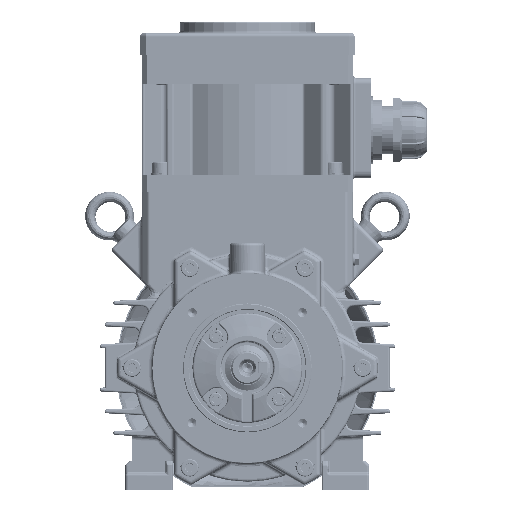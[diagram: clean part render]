
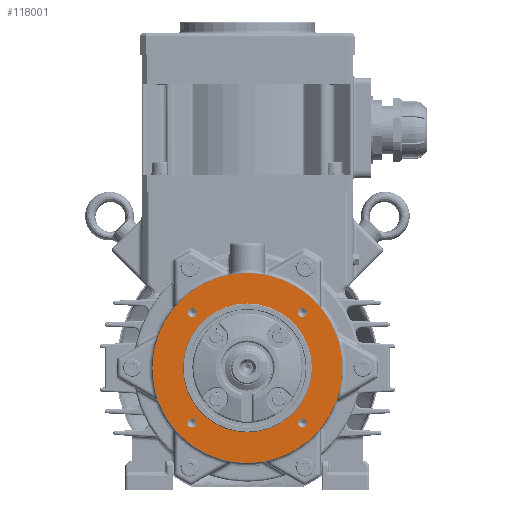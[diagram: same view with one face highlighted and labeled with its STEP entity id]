
A CAD part, front view. The second image highlights one B-rep face of the part: STEP entity #118001.
In plain terms, the highlighted planar face has unit normal (0, -1, 0).
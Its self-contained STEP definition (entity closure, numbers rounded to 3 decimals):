
#27244=ORIENTED_EDGE('',*,*,#46596,.F.);
#27245=ORIENTED_EDGE('',*,*,#46597,.T.);
#27246=ORIENTED_EDGE('',*,*,#46598,.T.);
#27247=ORIENTED_EDGE('',*,*,#46599,.T.);
#27248=ORIENTED_EDGE('',*,*,#46600,.T.);
#27249=ORIENTED_EDGE('',*,*,#46601,.T.);
#46596=EDGE_CURVE('',#56878,#56878,#63614,.T.);
#46597=EDGE_CURVE('',#56879,#56879,#63615,.T.);
#46598=EDGE_CURVE('',#56880,#56880,#63616,.T.);
#46599=EDGE_CURVE('',#56881,#56881,#63617,.T.);
#46600=EDGE_CURVE('',#56882,#56882,#63618,.T.);
#46601=EDGE_CURVE('',#56883,#56883,#63619,.T.);
#56878=VERTEX_POINT('',#179912);
#56879=VERTEX_POINT('',#179914);
#56880=VERTEX_POINT('',#179916);
#56881=VERTEX_POINT('',#179918);
#56882=VERTEX_POINT('',#179920);
#56883=VERTEX_POINT('',#179922);
#63614=CIRCLE('',#125142,47.5);
#63615=CIRCLE('',#125143,70.);
#63616=CIRCLE('',#125144,3.324);
#63617=CIRCLE('',#125145,3.324);
#63618=CIRCLE('',#125146,3.324);
#63619=CIRCLE('',#125147,3.324);
#68764=EDGE_LOOP('',(#27244));
#68765=EDGE_LOOP('',(#27245));
#68766=EDGE_LOOP('',(#27246));
#68767=EDGE_LOOP('',(#27247));
#68768=EDGE_LOOP('',(#27248));
#68769=EDGE_LOOP('',(#27249));
#74932=FACE_BOUND('',#68764,.T.);
#74933=FACE_BOUND('',#68765,.T.);
#74934=FACE_BOUND('',#68766,.T.);
#74935=FACE_BOUND('',#68767,.T.);
#74936=FACE_BOUND('',#68768,.T.);
#74937=FACE_BOUND('',#68769,.T.);
#79238=PLANE('',#125141);
#118001=ADVANCED_FACE('',(#74932,#74933,#74934,#74935,#74936,#74937),#79238,
 .T.);
#125141=AXIS2_PLACEMENT_3D('',#179910,#141257,#141258);
#125142=AXIS2_PLACEMENT_3D('',#179911,#141259,#141260);
#125143=AXIS2_PLACEMENT_3D('',#179913,#141261,#141262);
#125144=AXIS2_PLACEMENT_3D('',#179915,#141263,#141264);
#125145=AXIS2_PLACEMENT_3D('',#179917,#141265,#141266);
#125146=AXIS2_PLACEMENT_3D('',#179919,#141267,#141268);
#125147=AXIS2_PLACEMENT_3D('',#179921,#141269,#141270);
#141257=DIRECTION('',(0.,-1.,0.));
#141258=DIRECTION('',(0.,0.,1.));
#141259=DIRECTION('',(0.,-1.,0.));
#141260=DIRECTION('',(0.,0.,1.));
#141261=DIRECTION('',(0.,-1.,0.));
#141262=DIRECTION('',(0.,0.,1.));
#141263=DIRECTION('',(0.,1.,0.));
#141264=DIRECTION('',(0.,0.,1.));
#141265=DIRECTION('',(0.,1.,0.));
#141266=DIRECTION('',(0.,0.,1.));
#141267=DIRECTION('',(0.,1.,0.));
#141268=DIRECTION('',(0.,0.,1.));
#141269=DIRECTION('',(0.,1.,0.));
#141270=DIRECTION('',(0.,0.,1.));
#179910=CARTESIAN_POINT('',(0.,-36.,47.5));
#179911=CARTESIAN_POINT('',(0.,-36.,0.));
#179912=CARTESIAN_POINT('',(0.,-36.,47.5));
#179913=CARTESIAN_POINT('',(0.,-36.,0.));
#179914=CARTESIAN_POINT('',(0.,-36.,70.));
#179915=CARTESIAN_POINT('',(-40.659,-36.,40.659));
#179916=CARTESIAN_POINT('',(-40.659,-36.,43.982));
#179917=CARTESIAN_POINT('',(40.484,-36.,40.832));
#179918=CARTESIAN_POINT('',(40.484,-36.,44.156));
#179919=CARTESIAN_POINT('',(40.659,-36.,-40.659));
#179920=CARTESIAN_POINT('',(40.659,-36.,-37.335));
#179921=CARTESIAN_POINT('',(-40.832,-36.,-40.484));
#179922=CARTESIAN_POINT('',(-40.832,-36.,-37.161));
